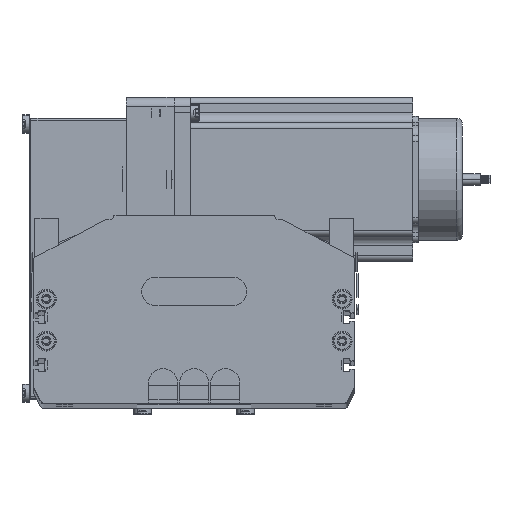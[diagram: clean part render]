
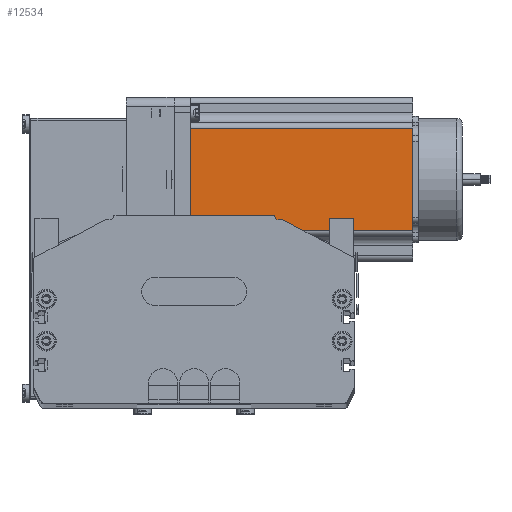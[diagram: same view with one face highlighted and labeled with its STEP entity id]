
A CAD part, top view. The second image highlights one B-rep face of the part: STEP entity #12534.
In plain terms, the highlighted planar face has unit normal (0, 0, 1) as drawn and (0, -1, 0) by its records, which use the part's own axes.
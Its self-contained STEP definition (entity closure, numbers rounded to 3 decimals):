
#12438 = ORIENTED_EDGE ( 'NONE', *, *, #12515, .F. ) ;
#12439 = EDGE_CURVE ( 'NONE', #12537, #12529, #14741, .T. ) ;
#12513 = ORIENTED_EDGE ( 'NONE', *, *, #12439, .T. ) ;
#12514 = ORIENTED_EDGE ( 'NONE', *, *, #12516, .T. ) ;
#12515 = EDGE_CURVE ( 'NONE', #12537, #12527, #14789, .T. ) ;
#12516 = EDGE_CURVE ( 'NONE', #12531, #12527, #14783, .T. ) ;
#12523 = EDGE_CURVE ( 'NONE', #12529, #12531, #14776, .T. ) ;
#12527 = VERTEX_POINT ( 'NONE', #14774 ) ;
#12529 = VERTEX_POINT ( 'NONE', #14773 ) ;
#12531 = VERTEX_POINT ( 'NONE', #14771 ) ;
#12534 = ADVANCED_FACE ( 'NONE', ( #14768 ), #14839, .F. ) ;
#12537 = VERTEX_POINT ( 'NONE', #14787 ) ;
#12538 = ORIENTED_EDGE ( 'NONE', *, *, #12523, .T. ) ;
#12645 = EDGE_LOOP ( 'NONE', ( #12538, #12514, #12438, #12513 ) ) ;
#14738 = DIRECTION ( 'NONE',  ( 0., 0., -1. ) ) ;
#14739 = VECTOR ( 'NONE', #14738, 1000. ) ;
#14740 = CARTESIAN_POINT ( 'NONE',  ( 16.16, 0., 116.5 ) ) ;
#14741 = LINE ( 'NONE', #14740, #14739 ) ;
#14768 = FACE_OUTER_BOUND ( 'NONE', #12645, .T. ) ;
#14771 = CARTESIAN_POINT ( 'NONE',  ( 69.74, 0., 0. ) ) ;
#14772 = DIRECTION ( 'NONE',  ( 1., 0., 0. ) ) ;
#14773 = CARTESIAN_POINT ( 'NONE',  ( 16.16, 0., 0. ) ) ;
#14774 = CARTESIAN_POINT ( 'NONE',  ( 69.74, 0., 116.5 ) ) ;
#14776 = LINE ( 'NONE', #14794, #14793 ) ;
#14779 = DIRECTION ( 'NONE',  ( 0., 0., 1. ) ) ;
#14780 = VECTOR ( 'NONE', #14779, 1000. ) ;
#14782 = CARTESIAN_POINT ( 'NONE',  ( 69.74, 0., 116.5 ) ) ;
#14783 = LINE ( 'NONE', #14782, #14780 ) ;
#14785 = DIRECTION ( 'NONE',  ( 1., 0., 0. ) ) ;
#14786 = VECTOR ( 'NONE', #14785, 1000. ) ;
#14787 = CARTESIAN_POINT ( 'NONE',  ( 16.16, 0., 116.5 ) ) ;
#14788 = CARTESIAN_POINT ( 'NONE',  ( 0., 0., 116.5 ) ) ;
#14789 = LINE ( 'NONE', #14788, #14786 ) ;
#14793 = VECTOR ( 'NONE', #14772, 1000. ) ;
#14794 = CARTESIAN_POINT ( 'NONE',  ( 0., 0., 0. ) ) ;
#14800 = AXIS2_PLACEMENT_3D ( 'NONE', #14837, #14836, #14835 ) ;
#14835 = DIRECTION ( 'NONE',  ( 0., 0., 1. ) ) ;
#14836 = DIRECTION ( 'NONE',  ( 0., 1., 0. ) ) ;
#14837 = CARTESIAN_POINT ( 'NONE',  ( 0., 0., 116.5 ) ) ;
#14839 = PLANE ( 'NONE',  #14800 ) ;
